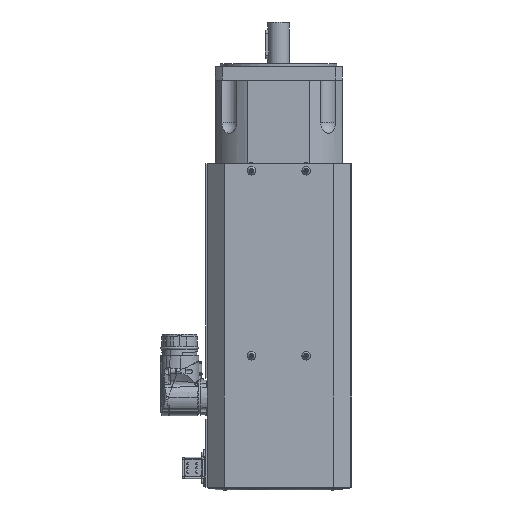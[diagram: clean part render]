
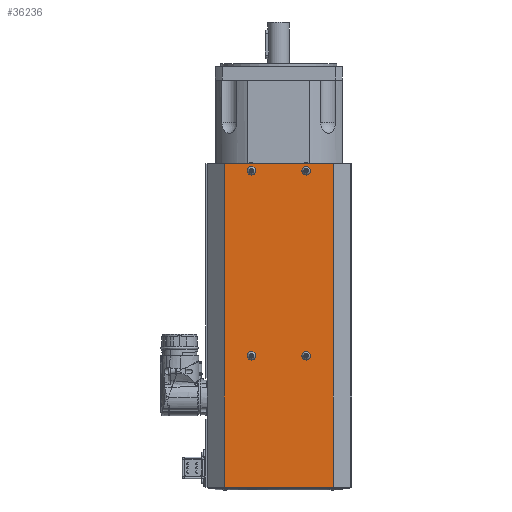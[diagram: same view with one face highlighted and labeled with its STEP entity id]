
A CAD part, left-side view. The second image highlights one B-rep face of the part: STEP entity #36236.
In plain terms, the highlighted planar face has unit normal (-1, 0, 0).
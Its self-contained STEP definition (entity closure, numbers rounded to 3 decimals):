
#4111=LINE('',#70969,#6043);
#4124=LINE('',#70991,#6056);
#4125=LINE('',#70993,#6057);
#4126=LINE('',#70994,#6058);
#6043=VECTOR('',#48792,362.);
#6056=VECTOR('',#48813,362.);
#6057=VECTOR('',#48816,121.6);
#6058=VECTOR('',#48817,121.6);
#8828=FACE_BOUND('',#13662,.T.);
#8829=FACE_BOUND('',#13663,.T.);
#8830=FACE_BOUND('',#13664,.T.);
#8831=FACE_BOUND('',#13665,.T.);
#8832=FACE_BOUND('',#13666,.T.);
#13662=EDGE_LOOP('',(#32398));
#13663=EDGE_LOOP('',(#32399));
#13664=EDGE_LOOP('',(#32400));
#13665=EDGE_LOOP('',(#32401));
#13666=EDGE_LOOP('',(#32402,#32403,#32404,#32405));
#15322=CIRCLE('',#39598,4.75);
#15336=CIRCLE('',#39633,4.75);
#15350=CIRCLE('',#39668,4.75);
#15364=CIRCLE('',#39703,4.75);
#18433=VERTEX_POINT('',#70151);
#18453=VERTEX_POINT('',#70236);
#18473=VERTEX_POINT('',#70321);
#18493=VERTEX_POINT('',#70406);
#18647=VERTEX_POINT('',#70966);
#18648=VERTEX_POINT('',#70968);
#18652=VERTEX_POINT('',#70987);
#18653=VERTEX_POINT('',#70989);
#22942=EDGE_CURVE('',#18433,#18433,#15322,.T.);
#22974=EDGE_CURVE('',#18453,#18453,#15336,.T.);
#23006=EDGE_CURVE('',#18473,#18473,#15350,.T.);
#23038=EDGE_CURVE('',#18493,#18493,#15364,.T.);
#23272=EDGE_CURVE('',#18647,#18648,#4111,.T.);
#23285=EDGE_CURVE('',#18652,#18653,#4124,.T.);
#23286=EDGE_CURVE('',#18652,#18647,#4125,.T.);
#23287=EDGE_CURVE('',#18653,#18648,#4126,.T.);
#32398=ORIENTED_EDGE('',*,*,#22942,.T.);
#32399=ORIENTED_EDGE('',*,*,#22974,.T.);
#32400=ORIENTED_EDGE('',*,*,#23006,.T.);
#32401=ORIENTED_EDGE('',*,*,#23038,.T.);
#32402=ORIENTED_EDGE('',*,*,#23286,.F.);
#32403=ORIENTED_EDGE('',*,*,#23285,.T.);
#32404=ORIENTED_EDGE('',*,*,#23287,.T.);
#32405=ORIENTED_EDGE('',*,*,#23272,.F.);
#34147=PLANE('',#39904);
#36236=ADVANCED_FACE('',(#8828,#8829,#8830,#8831,#8832),#34147,.T.);
#39598=AXIS2_PLACEMENT_3D('',#70152,#48014,#48015);
#39633=AXIS2_PLACEMENT_3D('',#70237,#48096,#48097);
#39668=AXIS2_PLACEMENT_3D('',#70322,#48178,#48179);
#39703=AXIS2_PLACEMENT_3D('',#70407,#48260,#48261);
#39904=AXIS2_PLACEMENT_3D('',#70992,#48814,#48815);
#48014=DIRECTION('center_axis',(1.,0.,0.));
#48015=DIRECTION('ref_axis',(0.,0.,-1.));
#48096=DIRECTION('center_axis',(1.,0.,0.));
#48097=DIRECTION('ref_axis',(0.,0.,-1.));
#48178=DIRECTION('center_axis',(1.,0.,0.));
#48179=DIRECTION('ref_axis',(0.,0.,-1.));
#48260=DIRECTION('center_axis',(1.,0.,0.));
#48261=DIRECTION('ref_axis',(0.,0.,-1.));
#48792=DIRECTION('',(0.,0.,-1.));
#48813=DIRECTION('',(0.,0.,-1.));
#48814=DIRECTION('center_axis',(-1.,0.,0.));
#48815=DIRECTION('ref_axis',(0.,1.,0.));
#48816=DIRECTION('',(0.,-1.,0.));
#48817=DIRECTION('',(0.,-1.,0.));
#70151=CARTESIAN_POINT('',(-80.2,-30.65,-303.75));
#70152=CARTESIAN_POINT('Origin',(-80.2,-30.65,-308.5));
#70236=CARTESIAN_POINT('',(-80.2,-30.65,-96.75));
#70237=CARTESIAN_POINT('Origin',(-80.2,-30.65,-101.5));
#70321=CARTESIAN_POINT('',(-80.2,30.65,-303.75));
#70322=CARTESIAN_POINT('Origin',(-80.2,30.65,-308.5));
#70406=CARTESIAN_POINT('',(-80.2,30.65,-96.75));
#70407=CARTESIAN_POINT('Origin',(-80.2,30.65,-101.5));
#70966=CARTESIAN_POINT('',(-80.2,-60.8,-93.5));
#70968=CARTESIAN_POINT('',(-80.2,-60.8,-455.5));
#70969=CARTESIAN_POINT('',(-80.2,-60.8,-93.5));
#70987=CARTESIAN_POINT('',(-80.2,60.8,-93.5));
#70989=CARTESIAN_POINT('',(-80.2,60.8,-455.5));
#70991=CARTESIAN_POINT('',(-80.2,60.8,-93.5));
#70992=CARTESIAN_POINT('Origin',(-80.2,0.,-93.5));
#70993=CARTESIAN_POINT('',(-80.2,60.8,-93.5));
#70994=CARTESIAN_POINT('',(-80.2,-60.8,-455.5));
